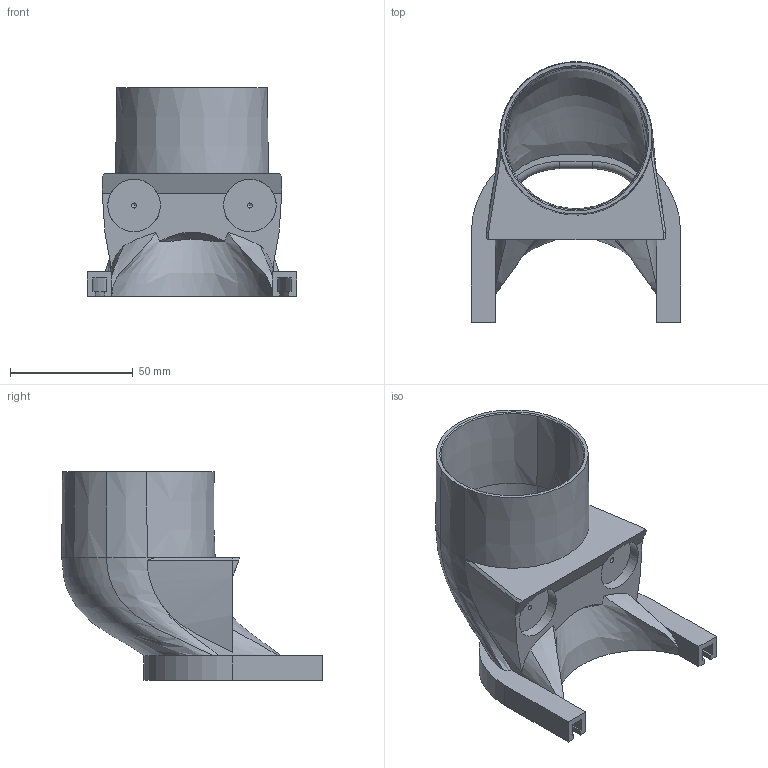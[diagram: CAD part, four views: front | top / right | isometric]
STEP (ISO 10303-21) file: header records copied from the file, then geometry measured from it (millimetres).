
FILE_DESCRIPTION(/* description */ ('STEP AP242 Edition 2','CAx-IF Rec.Pracs.---Representation and Presentation of Product Manufacturing Information (PMI)---4.0---2014-10-13','CAx-IF Rec.Pracs.---3D Tessellated Geometry---0.4---2014-09-14','2;1','CAx-IF Rec.Pracs.---User Defined Attributes---1.5---2016-08-15'),/* implementation_level */ '2;1');
FILE_NAME(/* name */ 'Dust Shoe V8 - LongMill MK3 Dust Shoe Hose',/* time_stamp */ '2026-09-09T16:13:53Z',/* author */ (''),/* organization */ (''),/* preprocessor_version */ 'ST-DEVELOPER v20',/* originating_system */ 'ONSHAPE BY PTC INC, 1.220',/* authorisation */ ' ');
FILE_SCHEMA (('AP242_MANAGED_MODEL_BASED_3D_ENGINEERING_MIM_LF { 1 0 10303 442 3 1 4 }'));
Length unit declared in the file: metre
Products named in the file (1): LongMill MK3 Dust Shoe Hose
Bounding box: 85.2 x 106.1 x 85 mm (x, y, z)
Volume: 71597.1 mm3; surface area: 46833.4 mm2
Topology: 1 solids, 1 shells, 107 faces, 290 edges, 183 vertices
Faces by surface type: plane 37, cone 25, bspline 24, cylinder 19, torus 2
Full cylindrical faces by diameter (mm): 2.05 x2, 21.4 x2
Entity records: 7659 total; most frequent: CARTESIAN_POINT 5275, ORIENTED_EDGE 552, DIRECTION 387, EDGE_CURVE 276, VERTEX_POINT 179, AXIS2_PLACEMENT_3D 147, B_SPLINE_CURVE_WITH_KNOTS 120, FACE_BOUND 117
